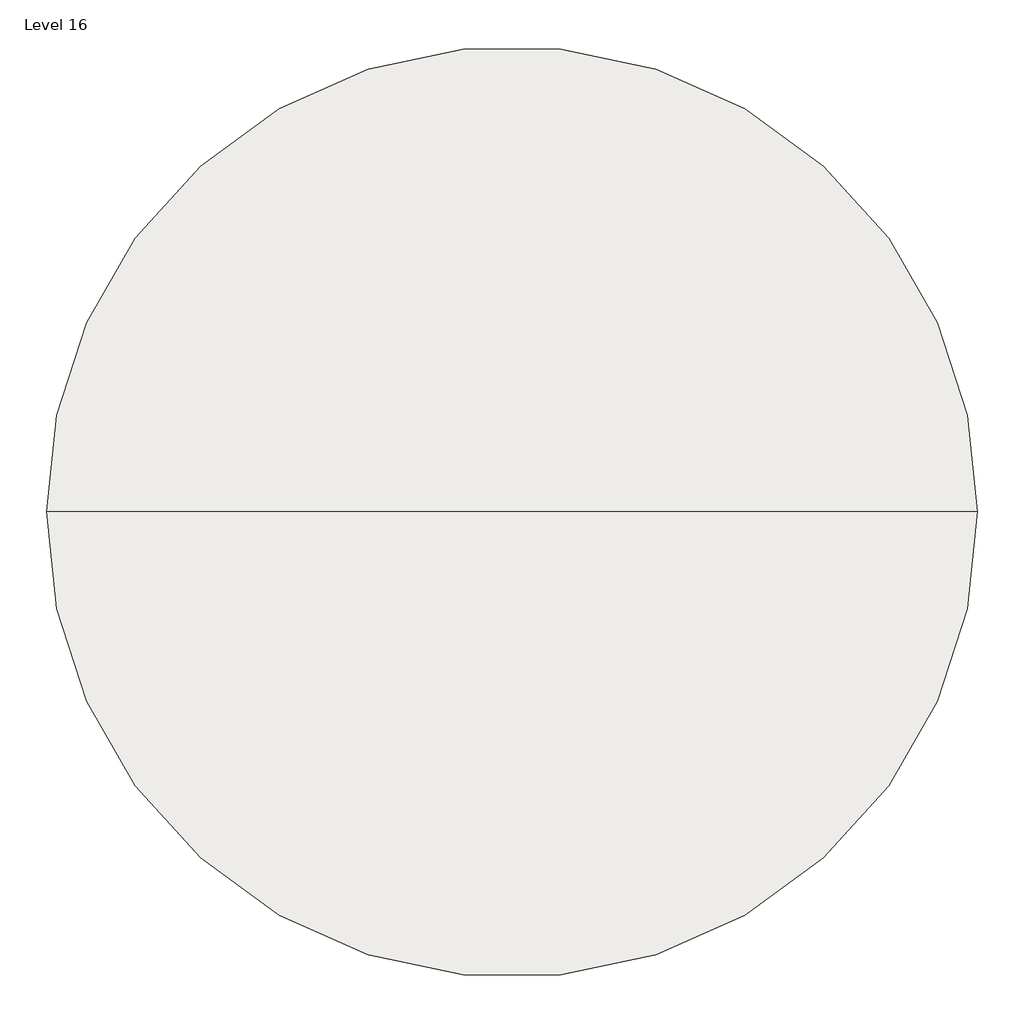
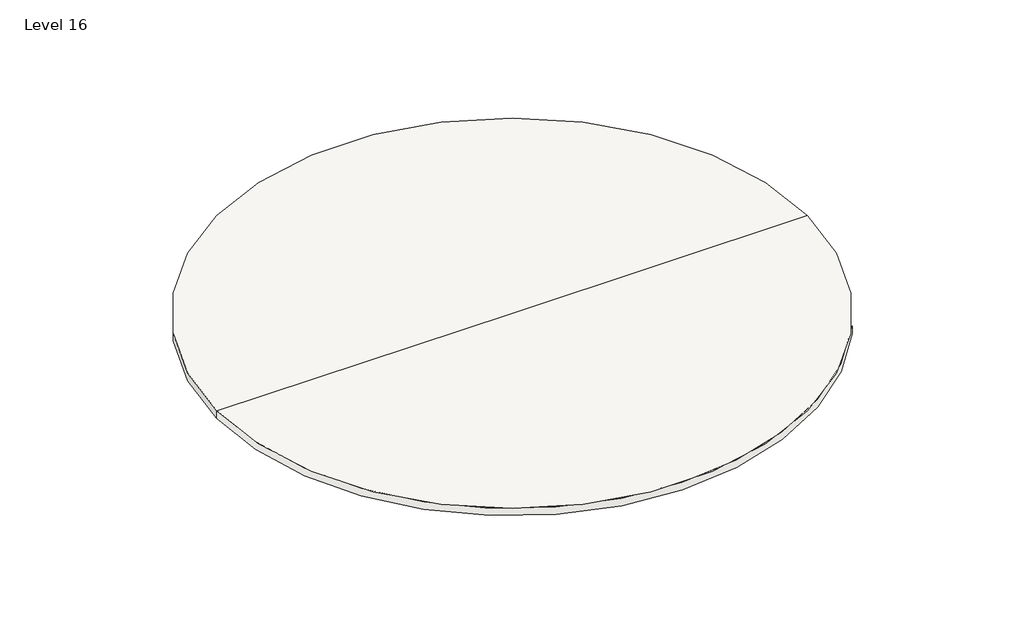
# One storey: 1 roof.
"""IFC4 building model written with IfcOpenShell, lengths in millimetres."""

from ifc_helpers import new_model, si_unit, frame, origin, place, context, project, spatial, circle_curve, element, save
from ifc_brep_helpers import plane_surface, cylinder_surface, advanced_brep

model = new_model("IFC4")

# Units and contexts
model_context = context("Model", 3, world=origin())
ifc_project = project(units=[si_unit("LENGTHUNIT", "METRE", prefix="MILLI")], contexts=[model_context])

# Site, building, storey
site = spatial("IfcSite", under=ifc_project)
building = spatial("IfcBuilding", under=site)
storey = spatial("IfcBuildingStorey", under=building, Name="Level 16", Elevation=60000.0)

# Roof
placement = place(None, origin())
element("IfcRoof", 1, ObjectType="Generic - 400mm", at=placement, inside=storey, context=model_context, shape_type="AdvancedBrep", body=[
    advanced_brep(
    [(-311.1044048, -281.6490077, 60000.0), (-15311.1044048, -281.6490077, 60000.0), (14688.8955952, -281.6490077, 60000.0), (-311.1044048, -281.6490077, 59600.0), (14688.8955952, -281.6490077, 59600.0), (-15311.1044048, -281.6490077, 59600.0)],
    [
        (0, 1),
        (1, 2, circle_curve(frame((-311.1044048, -281.6490077, 60000.0), z_axis=(0.0, 0.0, 1.0), x_axis=(-1.0, 0.0, 0.0)), 15000.0)),
        (2, 0),
        (2, 1, circle_curve(frame((-311.1044048, -281.6490077, 60000.0), z_axis=(0.0, 0.0, 1.0), x_axis=(1.0, 0.0, 0.0)), 15000.0)),
        (3, 4),
        (4, 5, circle_curve(frame((-311.1044048, -281.6490077, 59600.0), z_axis=(0.0, 0.0, -1.0), x_axis=(-1.0, 0.0, 0.0)), 15000.0)),
        (5, 3),
        (5, 4, circle_curve(frame((-311.1044048, -281.6490077, 59600.0), z_axis=(0.0, 0.0, -1.0), x_axis=(1.0, 0.0, 0.0)), 15000.0)),
        (4, 2),
        (1, 5),
    ],
    [
        plane_surface(frame((-311.1044048, -281.6490077, 60000.0), z_axis=(0.0, 0.0, 1.0), x_axis=(-1.0, 0.0, 0.0))),
        plane_surface(frame((-311.1044048, -281.6490077, 59600.0), z_axis=(0.0, 0.0, -1.0), x_axis=(-1.0, 0.0, 0.0))),
        cylinder_surface(frame((-311.1044048, -281.6490077, 60000.0), z_axis=(0.0, 0.0, -1.0), x_axis=(-1.0, 0.0, 0.0)), 15000.0),
        cylinder_surface(frame((-311.1044048, -281.6490077, 60000.0), z_axis=(0.0, 0.0, -1.0), x_axis=(1.0, 0.0, 0.0)), 15000.0),
    ],
    [
        (0, [[1, 2, 3]]),
        (0, [[-3, 4, -1]]),
        (1, [[5, 6, 7]]),
        (1, [[-7, 8, -5]]),
        (2, [[-6, 9, -2, 10]]),
        (3, [[-8, -10, -4, -9]]),
    ],
),
])

save(model, "model.ifc")
